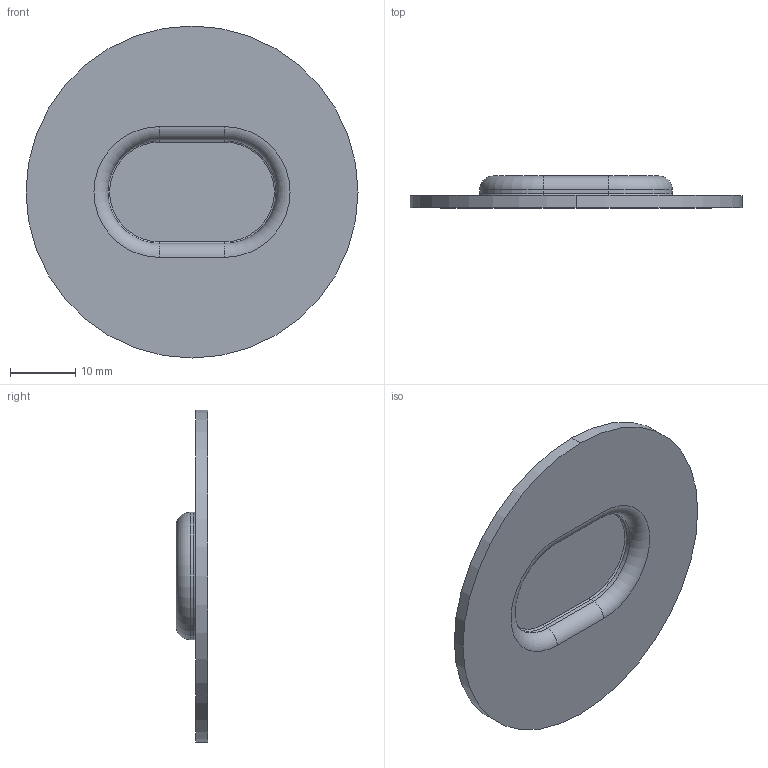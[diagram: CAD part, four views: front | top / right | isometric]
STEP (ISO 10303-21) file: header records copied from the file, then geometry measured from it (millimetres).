
FILE_DESCRIPTION (( 'STEP AP203' ), '1' );
FILE_NAME ('1153926 - 10.STEP', '2024-11-18T14:34:34', ( '' ), ( '' ), 'SwSTEP 2.0', 'SolidWorks 2024', '' );
FILE_SCHEMA (( 'CONFIG_CONTROL_DESIGN' ));
Length unit declared in the file: inch
Products named in the file (1): 1153926 - 10
Bounding box: 50.8 x 4.88 x 50.8 mm (x, y, z)
Volume: 4089 mm3; surface area: 4650.8 mm2
Topology: 1 solids, 1 shells, 30 faces, 62 edges, 36 vertices
Faces by surface type: cylinder 14, torus 8, plane 8
Entity records: 873 total; most frequent: DIRECTION 160, CARTESIAN_POINT 129, ORIENTED_EDGE 124, AXIS2_PLACEMENT_3D 67, EDGE_CURVE 62, VERTEX_POINT 36, CIRCLE 36, EDGE_LOOP 32
